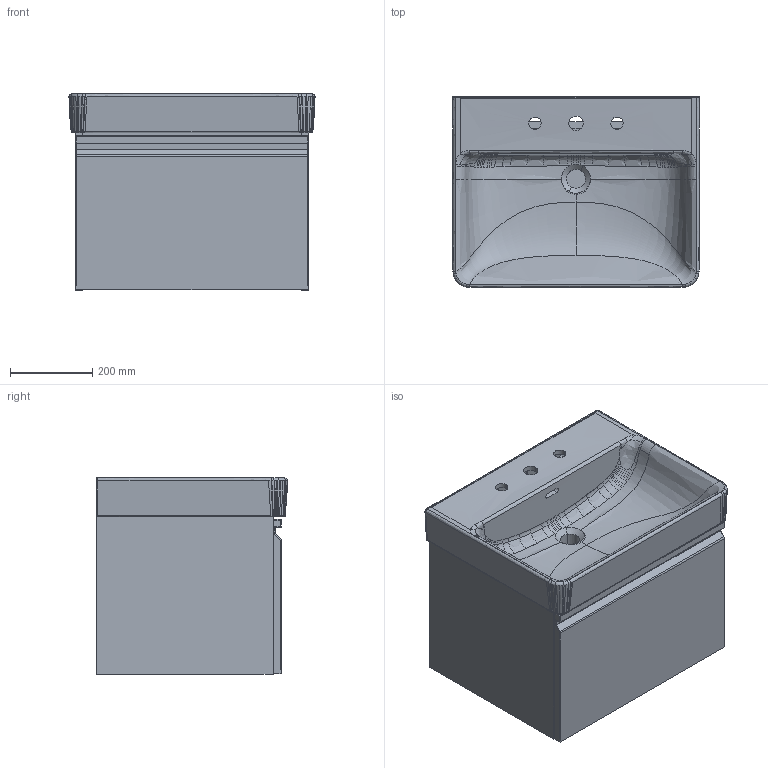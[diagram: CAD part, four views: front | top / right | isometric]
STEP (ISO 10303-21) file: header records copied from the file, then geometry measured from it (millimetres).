
FILE_DESCRIPTION(/* description */ (''),/* implementation_level */ '2;1');
FILE_NAME(/* name */ '3D883C~1',/* time_stamp */ '2018-05-14T09:04:35+02:00',/* author */ (''),/* organization */ (''),/* preprocessor_version */ 'ST-DEVELOPER v15',/* originating_system */ '',/* authorisation */ '');
FILE_SCHEMA (('AUTOMOTIVE_DESIGN'));
Length unit declared in the file: millimetre
Products named in the file (1): Document
Bounding box: 599.94 x 464.97 x 478 mm (x, y, z)
Volume: 19236381.1 mm3; surface area: 3607612.3 mm2
Topology: 18 solids, 19 shells, 1371 faces, 3460 edges, 2133 vertices
Faces by surface type: bspline 926, plane 445
Entity records: 138824 total; most frequent: CARTESIAN_POINT 117743, ORIENTED_EDGE 6878, EDGE_CURVE 3454, B_SPLINE_CURVE_WITH_KNOTS 2350, VERTEX_POINT 2133, EDGE_LOOP 1447, ADVANCED_FACE 1371, FACE_OUTER_BOUND 1371
